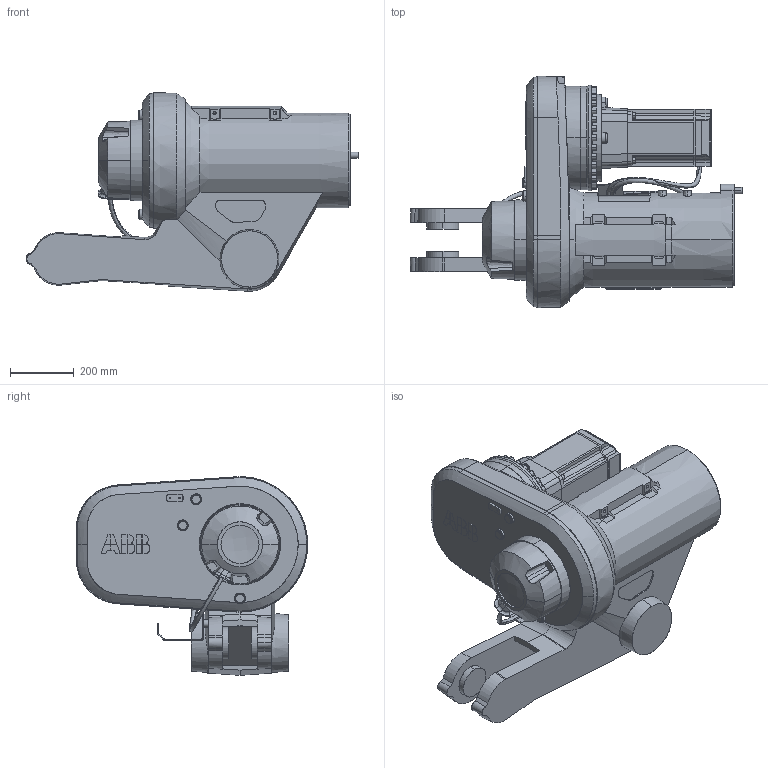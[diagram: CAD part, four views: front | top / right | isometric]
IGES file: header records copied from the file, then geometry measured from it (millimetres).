
Start section: SolidWorks IGES file using analytic representation for surfaces
Global section: file name: B:\DM\Robotics\SEROP_PROJ\Product Development\DevelopmentProjects\HD\3_Design PRMD\4_Struktur SAP o CAD\Lättmodeller\IRB8700-MH3_800-350\IRB8700-MH3_800-350_IRC5_IGES_j\IRB8700-MH3_800-350_IRC5_rev00_LINK3_CAD.IGS; native system: SolidWorks 2014; preprocessor: SolidWorks 2014; author: sepehak; date: 150604.102010; units: millimetre
Bounding box: 1044.31 x 728 x 624.85 mm (x, y, z)
Surface area: 2885308.8 mm2 (no closed solid volume)
Topology: 0 solids, 0 shells, 811 faces, 12675 edges, 12659 vertices
Faces by surface type: bspline 481, revolution 330
